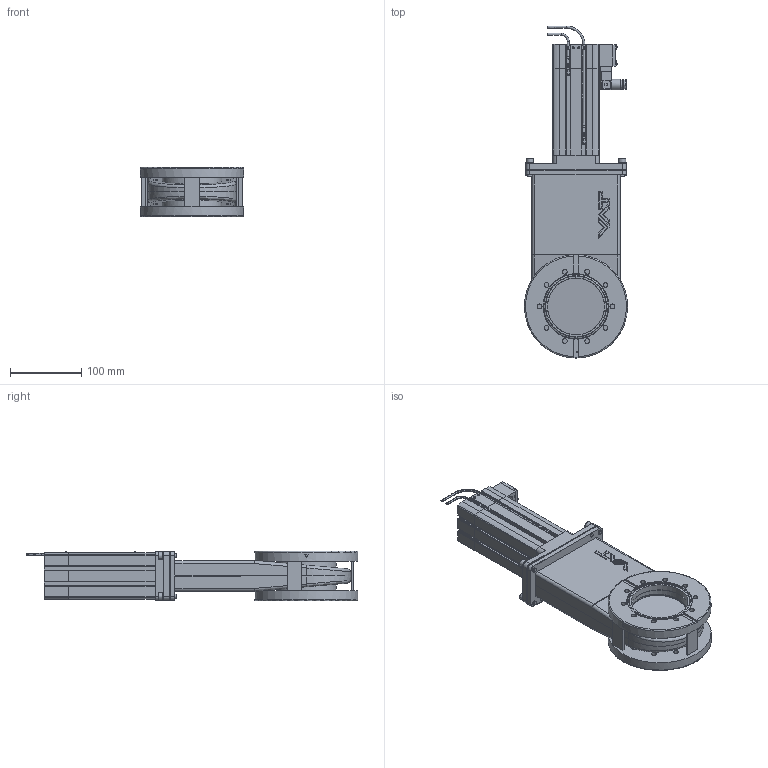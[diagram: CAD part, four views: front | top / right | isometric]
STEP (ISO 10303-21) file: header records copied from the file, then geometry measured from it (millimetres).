
FILE_DESCRIPTION(/* description */ (''),/* implementation_level */ '2;1');
FILE_NAME(/* name */ '1625181700_203.stp',/* time_stamp */ '2016-05-18T07:40:50+02:00',/* author */ (''),/* organization */ (''),/* preprocessor_version */ 'ST-DEVELOPER v15',/* originating_system */ 'SIEMENS PLM Software NX 9.0',/* authorisation */ '');
FILE_SCHEMA (('AP203_CONFIGURATION_CONTROLLED_3D_DESIGN_OF_MECHANICAL_PARTS_AND_ASSEMBLIES_MIM_LF { 1 0 10303 403 2 1 2}'));
Length unit declared in the file: millimetre
Products named in the file (33): 467882; 437235; 461638_26427ID; 487660; 461638_26429ID; 350769.3_26383ID; 351945.10_26368ID; 351945.10_24829ID; N-7557-016_1.1; N-7557-018.1; N-7557-016_2.1; N-6024-524.1; N-5018-005.1; 707260; 706312; 589958; 436441; 436441_26384ID; 251262.4; 351301.5; 708169; 708168; 493762; N-7557-016_3.1_MODELNX-ARRAGMNTArrangement 1; 94800-R1.7_NX-ARRAGMNTKONFIG1; 759778_NX-ARRAGMNTAbstand_107; 759778_NX-ARRAGMNTAbstand_10; 706311_NX-ARRAGMNTAntrieb_v2_09x38-DN080, 2xLM Kabelaustritt hinten; 527369_NX-ARRAGMNTR09X Massbild Stange unterdrueckt, keine Innenteile; 356605.3_MODEL; 351296.12_NX-ARRAGMNTunbearbeitet Original; 436430; 803474
Assembly tree (48 placements, depth 4):
  803474
    436430
      351301.5  x2
      351296.12_NX-ARRAGMNTunbearbeitet Original
        351945.10_24829ID
        351945.10_26368ID
      251262.4  x3
      436441_26384ID
      436441
      356605.3_MODEL
        350769.3_26383ID
    493762
    527369_NX-ARRAGMNTR09X Massbild Stange unterdrueckt, keine Innenteile
      589958
    708168  x4
    708169  x4
    706311_NX-ARRAGMNTAntrieb_v2_09x38-DN080, 2xLM Kabelaustritt hinten
      706312
      707260
      759778_NX-ARRAGMNTAbstand_10
        461638_26429ID
        487660
      759778_NX-ARRAGMNTAbstand_107
        461638_26427ID
        487660
    94800-R1.7_NX-ARRAGMNTKONFIG1
      N-5018-005.1  x2
      N-6024-524.1  x6
      N-7557-016_2.1
      N-7557-018.1
      N-7557-016_1.1
      N-7557-016_3.1_MODELNX-ARRAGMNTArrangement 1
        437235
        467882
Bounding box: 145 x 466.95 x 70 mm (x, y, z)
Volume: 1170875.3 mm3; surface area: 598462.9 mm2
Topology: 42 solids, 44 shells, 1963 faces, 5431 edges, 3683 vertices
Faces by surface type: plane 1165, cylinder 565, cone 96, extrusion 43, sphere 39, torus 29, bspline 26
Full cylindrical faces by diameter (mm): 1 x4, 1.2 x2, 2.3 x2, 2.5 x7, 2.9 x1, 3 x9, 3.2 x2, 3.4 x4, 3.5 x3, 3.8 x3, 4 x3, 4.2 x2, 4.22 x1, 5 x9, 5.2 x2, 5.22 x4, 5.5 x1, 5.774 x1, 6 x16, 6.4 x4, 6.5 x8, 6.8 x23, 7 x2, 8 x2, 8.1 x1, 8.566 x1, 8.8 x2, 10 x13, 10.4 x1, 10.5 x2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
Entity records: 67646 total; most frequent: CARTESIAN_POINT 20878, ORIENTED_EDGE 8328, DIRECTION 7810, EDGE_CURVE 4164, VERTEX_POINT 3008, AXIS2_PLACEMENT_3D 2861, EDGE_LOOP 2221, VECTOR 2088
